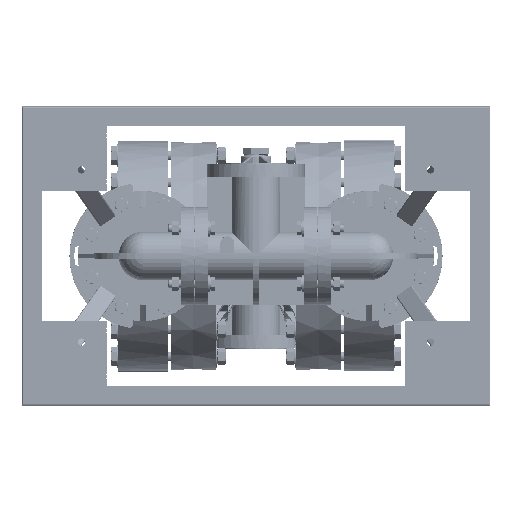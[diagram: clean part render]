
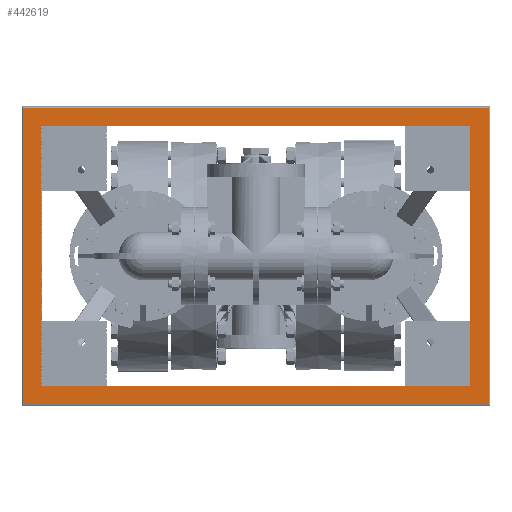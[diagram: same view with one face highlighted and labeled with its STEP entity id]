
A CAD part, front view. The second image highlights one B-rep face of the part: STEP entity #442619.
In plain terms, the highlighted planar face has unit normal (0, -1, 0).
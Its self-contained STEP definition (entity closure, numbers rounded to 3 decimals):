
#82691=CARTESIAN_POINT('',(-17.89,-26.434,-11.39));
#82724=DIRECTION('',(1.,0.,0.));
#82725=VECTOR('',#82724,35.78);
#82726=CARTESIAN_POINT('',(-17.89,-26.434,-11.39));
#82727=LINE('',#82726,#82725);
#82728=CARTESIAN_POINT('',(17.89,-26.434,-11.39));
#82765=DIRECTION('',(0.,0.,-1.));
#82766=VECTOR('',#82765,22.78);
#82767=CARTESIAN_POINT('',(-17.89,-26.434,11.39));
#82768=LINE('',#82767,#82766);
#82773=DIRECTION('',(-1.,0.,0.));
#82774=VECTOR('',#82773,35.78);
#82775=CARTESIAN_POINT('',(17.89,-26.434,11.39));
#82776=LINE('',#82775,#82774);
#82847=DIRECTION('',(-1.,0.,0.));
#82848=VECTOR('',#82847,33.);
#82849=CARTESIAN_POINT('',(16.5,-26.434,10.));
#82850=LINE('',#82849,#82848);
#82851=DIRECTION('',(0.,0.,-1.));
#82852=VECTOR('',#82851,20.);
#82853=CARTESIAN_POINT('',(-16.5,-26.434,10.));
#82854=LINE('',#82853,#82852);
#82855=DIRECTION('',(1.,0.,0.));
#82856=VECTOR('',#82855,33.);
#82857=CARTESIAN_POINT('',(-16.5,-26.434,-10.));
#82858=LINE('',#82857,#82856);
#82859=DIRECTION('',(0.,0.,1.));
#82860=VECTOR('',#82859,20.);
#82861=CARTESIAN_POINT('',(16.5,-26.434,-10.));
#82862=LINE('',#82861,#82860);
#82867=DIRECTION('',(0.,0.,1.));
#82868=VECTOR('',#82867,22.78);
#82869=CARTESIAN_POINT('',(17.89,-26.434,-11.39));
#82870=LINE('',#82869,#82868);
#375810=CARTESIAN_POINT('',(17.89,-26.434,11.39));
#375811=CARTESIAN_POINT('',(-17.89,-26.434,11.39));
#375812=VERTEX_POINT('',#375810);
#375813=VERTEX_POINT('',#375811);
#375818=VERTEX_POINT('',#82691);
#375820=VERTEX_POINT('',#82728);
#375842=CARTESIAN_POINT('',(16.5,-26.434,10.));
#375843=CARTESIAN_POINT('',(-16.5,-26.434,10.));
#375844=VERTEX_POINT('',#375842);
#375845=VERTEX_POINT('',#375843);
#375846=CARTESIAN_POINT('',(-16.5,-26.434,-10.));
#375847=CARTESIAN_POINT('',(16.5,-26.434,-10.));
#375848=VERTEX_POINT('',#375846);
#375849=VERTEX_POINT('',#375847);
#442597=CARTESIAN_POINT('',(0.,-26.434,0.));
#442598=DIRECTION('',(0.,1.,0.));
#442599=DIRECTION('',(-1.,0.,0.));
#442600=AXIS2_PLACEMENT_3D('',#442597,#442598,#442599);
#442601=PLANE('',#442600);
#442602=ORIENTED_EDGE('',*,*,#442588,.F.);
#442604=ORIENTED_EDGE('',*,*,#442603,.F.);
#442605=ORIENTED_EDGE('',*,*,#442561,.F.);
#442606=ORIENTED_EDGE('',*,*,#442576,.F.);
#442607=EDGE_LOOP('',(#442602,#442604,#442605,#442606));
#442608=FACE_OUTER_BOUND('',#442607,.F.);
#442610=ORIENTED_EDGE('',*,*,#442609,.T.);
#442612=ORIENTED_EDGE('',*,*,#442611,.T.);
#442614=ORIENTED_EDGE('',*,*,#442613,.T.);
#442616=ORIENTED_EDGE('',*,*,#442615,.T.);
#442617=EDGE_LOOP('',(#442610,#442612,#442614,#442616));
#442618=FACE_BOUND('',#442617,.F.);
#442561=EDGE_CURVE('',#375818,#375820,#82727,.T.);
#442576=EDGE_CURVE('',#375813,#375818,#82768,.T.);
#442588=EDGE_CURVE('',#375812,#375813,#82776,.T.);
#442603=EDGE_CURVE('',#375820,#375812,#82870,.T.);
#442609=EDGE_CURVE('',#375844,#375845,#82850,.T.);
#442611=EDGE_CURVE('',#375845,#375848,#82854,.T.);
#442613=EDGE_CURVE('',#375848,#375849,#82858,.T.);
#442615=EDGE_CURVE('',#375849,#375844,#82862,.T.);
#442619=ADVANCED_FACE('',(#442608,#442618),#442601,.F.);
